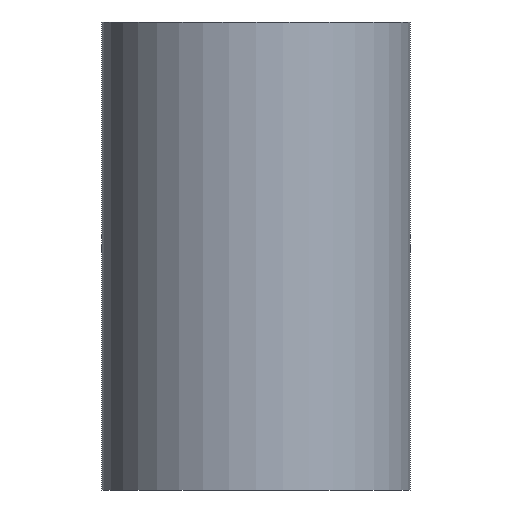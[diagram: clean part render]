
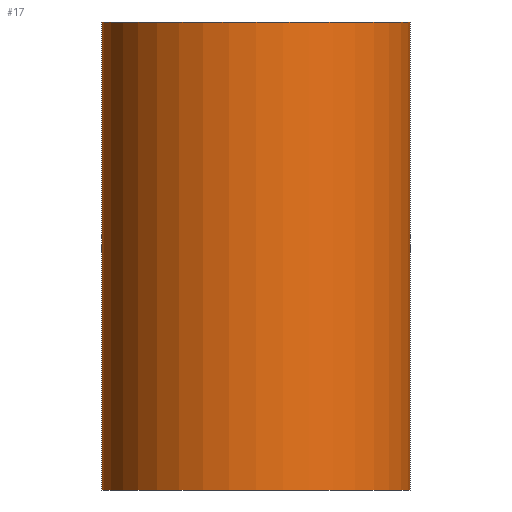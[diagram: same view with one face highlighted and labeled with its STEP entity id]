
A CAD part, front view. The second image highlights one B-rep face of the part: STEP entity #17.
In plain terms, the highlighted cylindrical face has radius 2.7 mm (diameter 5.4 mm), a full revolution.
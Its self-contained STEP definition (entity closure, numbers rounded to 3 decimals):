
#17 = ADVANCED_FACE('',(#18),#31,.T.);
#18 = FACE_BOUND('',#19,.T.);
#19 = EDGE_LOOP('',(#20,#54,#77,#104));
#20 = ORIENTED_EDGE('',*,*,#21,.F.);
#21 = EDGE_CURVE('',#22,#22,#24,.T.);
#22 = VERTEX_POINT('',#23);
#23 = CARTESIAN_POINT('',(2.7,0.,8.2));
#24 = SURFACE_CURVE('',#25,(#30,#42),.PCURVE_S1.);
#25 = CIRCLE('',#26,2.7);
#26 = AXIS2_PLACEMENT_3D('',#27,#28,#29);
#27 = CARTESIAN_POINT('',(0.,0.,8.2));
#28 = DIRECTION('',(0.,0.,1.));
#29 = DIRECTION('',(1.,0.,-0.));
#30 = PCURVE('',#31,#36);
#31 = CYLINDRICAL_SURFACE('',#32,2.7);
#32 = AXIS2_PLACEMENT_3D('',#33,#34,#35);
#33 = CARTESIAN_POINT('',(0.,0.,0.));
#34 = DIRECTION('',(0.,0.,1.));
#35 = DIRECTION('',(1.,0.,-0.));
#36 = DEFINITIONAL_REPRESENTATION('',(#37),#41);
#37 = LINE('',#38,#39);
#38 = CARTESIAN_POINT('',(0.,8.2));
#39 = VECTOR('',#40,1.);
#40 = DIRECTION('',(1.,0.));
#41 = ( GEOMETRIC_REPRESENTATION_CONTEXT(2) 
PARAMETRIC_REPRESENTATION_CONTEXT() REPRESENTATION_CONTEXT('2D SPACE',''
  ) );
#42 = PCURVE('',#43,#48);
#43 = PLANE('',#44);
#44 = AXIS2_PLACEMENT_3D('',#45,#46,#47);
#45 = CARTESIAN_POINT('',(0.,0.,8.2));
#46 = DIRECTION('',(0.,0.,1.));
#47 = DIRECTION('',(1.,0.,-0.));
#48 = DEFINITIONAL_REPRESENTATION('',(#49),#53);
#49 = CIRCLE('',#50,2.7);
#50 = AXIS2_PLACEMENT_2D('',#51,#52);
#51 = CARTESIAN_POINT('',(0.,0.));
#52 = DIRECTION('',(1.,0.));
#53 = ( GEOMETRIC_REPRESENTATION_CONTEXT(2) 
PARAMETRIC_REPRESENTATION_CONTEXT() REPRESENTATION_CONTEXT('2D SPACE',''
  ) );
#54 = ORIENTED_EDGE('',*,*,#55,.F.);
#55 = EDGE_CURVE('',#56,#22,#58,.T.);
#56 = VERTEX_POINT('',#57);
#57 = CARTESIAN_POINT('',(2.7,0.,0.));
#58 = SEAM_CURVE('',#59,(#63,#70),.PCURVE_S1.);
#59 = LINE('',#60,#61);
#60 = CARTESIAN_POINT('',(2.7,0.,0.));
#61 = VECTOR('',#62,1.);
#62 = DIRECTION('',(0.,0.,1.));
#63 = PCURVE('',#31,#64);
#64 = DEFINITIONAL_REPRESENTATION('',(#65),#69);
#65 = LINE('',#66,#67);
#66 = CARTESIAN_POINT('',(6.283,-0.));
#67 = VECTOR('',#68,1.);
#68 = DIRECTION('',(0.,1.));
#69 = ( GEOMETRIC_REPRESENTATION_CONTEXT(2) 
PARAMETRIC_REPRESENTATION_CONTEXT() REPRESENTATION_CONTEXT('2D SPACE',''
  ) );
#70 = PCURVE('',#31,#71);
#71 = DEFINITIONAL_REPRESENTATION('',(#72),#76);
#72 = LINE('',#73,#74);
#73 = CARTESIAN_POINT('',(0.,-0.));
#74 = VECTOR('',#75,1.);
#75 = DIRECTION('',(0.,1.));
#76 = ( GEOMETRIC_REPRESENTATION_CONTEXT(2) 
PARAMETRIC_REPRESENTATION_CONTEXT() REPRESENTATION_CONTEXT('2D SPACE',''
  ) );
#77 = ORIENTED_EDGE('',*,*,#78,.T.);
#78 = EDGE_CURVE('',#56,#56,#79,.T.);
#79 = SURFACE_CURVE('',#80,(#85,#92),.PCURVE_S1.);
#80 = CIRCLE('',#81,2.7);
#81 = AXIS2_PLACEMENT_3D('',#82,#83,#84);
#82 = CARTESIAN_POINT('',(0.,0.,0.));
#83 = DIRECTION('',(0.,0.,1.));
#84 = DIRECTION('',(1.,0.,-0.));
#85 = PCURVE('',#31,#86);
#86 = DEFINITIONAL_REPRESENTATION('',(#87),#91);
#87 = LINE('',#88,#89);
#88 = CARTESIAN_POINT('',(0.,0.));
#89 = VECTOR('',#90,1.);
#90 = DIRECTION('',(1.,0.));
#91 = ( GEOMETRIC_REPRESENTATION_CONTEXT(2) 
PARAMETRIC_REPRESENTATION_CONTEXT() REPRESENTATION_CONTEXT('2D SPACE',''
  ) );
#92 = PCURVE('',#93,#98);
#93 = PLANE('',#94);
#94 = AXIS2_PLACEMENT_3D('',#95,#96,#97);
#95 = CARTESIAN_POINT('',(0.,0.,0.));
#96 = DIRECTION('',(0.,0.,1.));
#97 = DIRECTION('',(1.,0.,-0.));
#98 = DEFINITIONAL_REPRESENTATION('',(#99),#103);
#99 = CIRCLE('',#100,2.7);
#100 = AXIS2_PLACEMENT_2D('',#101,#102);
#101 = CARTESIAN_POINT('',(0.,0.));
#102 = DIRECTION('',(1.,0.));
#103 = ( GEOMETRIC_REPRESENTATION_CONTEXT(2) 
PARAMETRIC_REPRESENTATION_CONTEXT() REPRESENTATION_CONTEXT('2D SPACE',''
  ) );
#104 = ORIENTED_EDGE('',*,*,#55,.T.);
